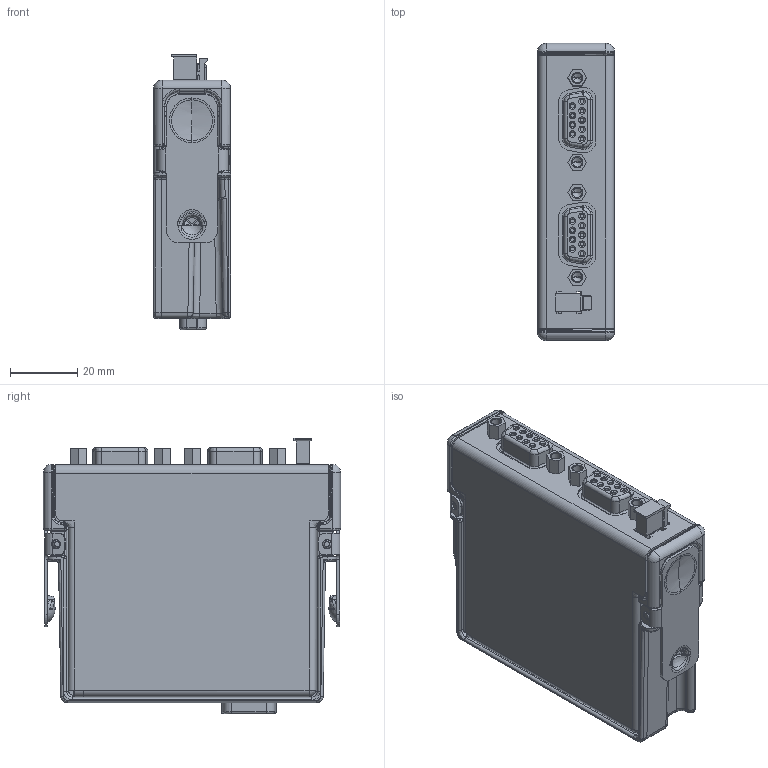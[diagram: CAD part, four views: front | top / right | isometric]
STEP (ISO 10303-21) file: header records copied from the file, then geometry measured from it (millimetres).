
FILE_DESCRIPTION((''),'2;1');
FILE_NAME('CU_NI-9218','2014-10-06T',('dkendric'),(''),'PRO/ENGINEER BY PARAMETRIC TECHNOLOGY CORPORATION, 2014000','PRO/ENGINEER BY PARAMETRIC TECHNOLOGY CORPORATION, 2014000','');
FILE_SCHEMA(('CONFIG_CONTROL_DESIGN'));
Products named in the file (1): CU_NI-9218
Bounding box: 22.86 x 88.11 x 81.78 mm (x, y, z)
Volume: 44073.6 mm3; surface area: 49828 mm2
Topology: 4 solids, 4 shells, 2305 faces, 5690 edges, 3439 vertices
Faces by surface type: plane 1024, cylinder 678, bspline 325, cone 133, torus 96, sphere 41, extrusion 8
Entity records: 85444 total; most frequent: CARTESIAN_POINT 33134, ORIENTED_EDGE 11302, DIRECTION 10267, EDGE_CURVE 5651, AXIS2_PLACEMENT_3D 3516, VERTEX_POINT 3439, VECTOR 3235, LINE 3227
